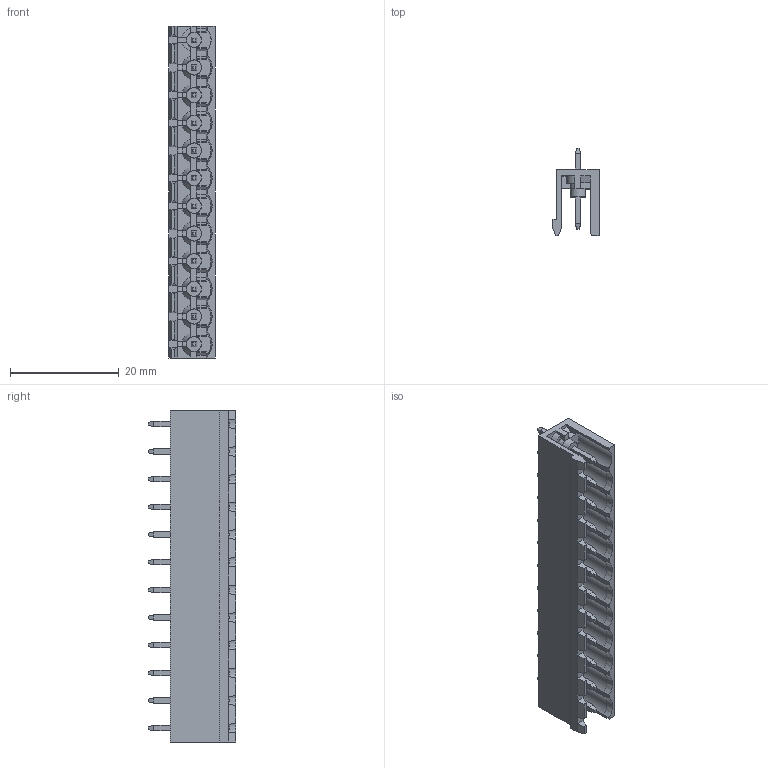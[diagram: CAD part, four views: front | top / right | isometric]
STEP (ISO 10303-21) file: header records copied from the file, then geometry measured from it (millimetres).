
FILE_DESCRIPTION (( 'STEP AP203' ), '1' );
FILE_NAME ('BR8MC1-12.STEP', '2020-03-18T03:00:49', ( '' ), ( '' ), 'SwSTEP 2.0', 'SolidWorks 2019', '' );
FILE_SCHEMA (( 'CONFIG_CONTROL_DESIGN' ));
Length unit declared in the file: millimetre
Products named in the file (1): BR8MC1-12
Bounding box: 8.5 x 16.03 x 60.96 mm (x, y, z)
Volume: 2310 mm3; surface area: 5135.3 mm2
Topology: 1 solids, 1 shells, 1015 faces, 2646 edges, 1633 vertices
Faces by surface type: plane 873, cylinder 61, cone 57, sphere 24
Entity records: 30188 total; most frequent: CARTESIAN_POINT 5752, ORIENTED_EDGE 5196, DIRECTION 4757, EDGE_CURVE 2598, LINE 2221, VECTOR 2221, VERTEX_POINT 1609, AXIS2_PLACEMENT_3D 1268
